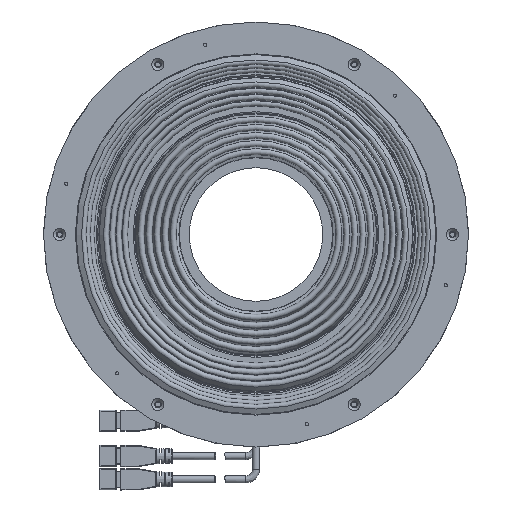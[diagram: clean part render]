
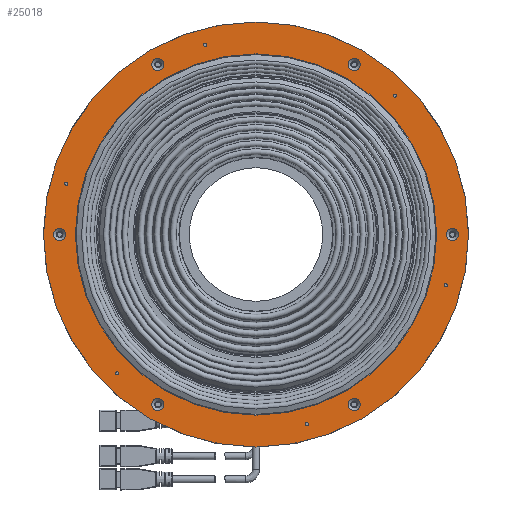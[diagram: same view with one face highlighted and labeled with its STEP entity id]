
A CAD part, front view. The second image highlights one B-rep face of the part: STEP entity #25018.
In plain terms, the highlighted planar face has unit normal (0, -1, 0).
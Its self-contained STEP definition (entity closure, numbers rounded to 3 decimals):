
#203 = FACE_BOUND ( 'NONE', #10882, .T. ) ;
#263 = ORIENTED_EDGE ( 'NONE', *, *, #7367, .F. ) ;
#453 = ORIENTED_EDGE ( 'NONE', *, *, #17191, .F. ) ;
#557 = CARTESIAN_POINT ( 'NONE',  ( 0., -62.5, 0. ) ) ;
#782 = DIRECTION ( 'NONE',  ( -0.866, 0., 0.5 ) ) ;
#1476 = FACE_BOUND ( 'NONE', #12536, .T. ) ;
#1606 = DIRECTION ( 'NONE',  ( 0.866, 0., -0.5 ) ) ;
#1882 = CARTESIAN_POINT ( 'NONE',  ( -24.413, -62.5, 93.295 ) ) ;
#2046 = CARTESIAN_POINT ( 'NONE',  ( 51.098, -62.5, 82.504 ) ) ;
#2954 = DIRECTION ( 'NONE',  ( 0.866, 0., -0.5 ) ) ;
#3031 = DIRECTION ( 'NONE',  ( 0.866, 0., -0.5 ) ) ;
#3050 = EDGE_CURVE ( 'NONE', #15228, #15228, #17728, .T. ) ;
#3204 = EDGE_LOOP ( 'NONE', ( #17561 ) ) ;
#3430 = CARTESIAN_POINT ( 'NONE',  ( -94.402, -62.5, -1.5 ) ) ;
#3611 = AXIS2_PLACEMENT_3D ( 'NONE', #30017, #11236, #2954 ) ;
#3721 = EDGE_CURVE ( 'NONE', #14371, #14371, #24366, .T. ) ;
#4034 = EDGE_CURVE ( 'NONE', #22371, #22371, #5152, .T. ) ;
#4826 = CARTESIAN_POINT ( 'NONE',  ( 48.5, -62.5, -84.004 ) ) ;
#4843 = EDGE_CURVE ( 'NONE', #16094, #16094, #27600, .T. ) ;
#4864 = FACE_BOUND ( 'NONE', #13019, .T. ) ;
#4997 = EDGE_CURVE ( 'NONE', #17314, #17314, #11626, .T. ) ;
#5056 = EDGE_LOOP ( 'NONE', ( #263 ) ) ;
#5152 = CIRCLE ( 'NONE', #26201, 89.256 ) ;
#5200 = CIRCLE ( 'NONE', #27896, 3. ) ;
#5206 = ORIENTED_EDGE ( 'NONE', *, *, #8014, .F. ) ;
#5244 = DIRECTION ( 'NONE',  ( 0.866, 0., -0.5 ) ) ;
#5550 = DIRECTION ( 'NONE',  ( 0.866, 0., -0.5 ) ) ;
#5902 = CARTESIAN_POINT ( 'NONE',  ( -93.695, -62.5, 25.105 ) ) ;
#5940 = CARTESIAN_POINT ( 'NONE',  ( 68.589, -62.5, 68.589 ) ) ;
#6017 = DIRECTION ( 'NONE',  ( 0.866, 0., -0.5 ) ) ;
#6098 = FACE_BOUND ( 'NONE', #15999, .T. ) ;
#6118 = CARTESIAN_POINT ( 'NONE',  ( -67.897, -62.5, -68.989 ) ) ;
#6214 = AXIS2_PLACEMENT_3D ( 'NONE', #8420, #24322, #3031 ) ;
#6431 = DIRECTION ( 'NONE',  ( 0.866, 0., -0.5 ) ) ;
#6898 = AXIS2_PLACEMENT_3D ( 'NONE', #16902, #7002, #1606 ) ;
#6912 = ORIENTED_EDGE ( 'NONE', *, *, #28408, .F. ) ;
#6946 = FACE_BOUND ( 'NONE', #20689, .T. ) ;
#7002 = DIRECTION ( 'NONE',  ( 0., -1., 0. ) ) ;
#7208 = AXIS2_PLACEMENT_3D ( 'NONE', #10894, #10081, #5550 ) ;
#7367 = EDGE_CURVE ( 'NONE', #24447, #24447, #12763, .T. ) ;
#7394 = FACE_BOUND ( 'NONE', #26424, .T. ) ;
#7431 = ORIENTED_EDGE ( 'NONE', *, *, #19134, .F. ) ;
#7548 = DIRECTION ( 'NONE',  ( 0., -1., 0. ) ) ;
#7689 = VERTEX_POINT ( 'NONE', #1882 ) ;
#7780 = FACE_BOUND ( 'NONE', #30837, .T. ) ;
#7905 = CARTESIAN_POINT ( 'NONE',  ( 69.282, -62.5, 68.189 ) ) ;
#8014 = EDGE_CURVE ( 'NONE', #31633, #31633, #25655, .T. ) ;
#8389 = CIRCLE ( 'NONE', #30445, 0.8 ) ;
#8420 = CARTESIAN_POINT ( 'NONE',  ( -68.589, -62.5, -68.589 ) ) ;
#9049 = FACE_BOUND ( 'NONE', #5056, .T. ) ;
#10081 = DIRECTION ( 'NONE',  ( 0., -1., 0. ) ) ;
#10420 = ORIENTED_EDGE ( 'NONE', *, *, #4843, .F. ) ;
#10719 = AXIS2_PLACEMENT_3D ( 'NONE', #557, #27503, #782 ) ;
#10882 = EDGE_LOOP ( 'NONE', ( #20457 ) ) ;
#10894 = CARTESIAN_POINT ( 'NONE',  ( 48.5, -62.5, 84.004 ) ) ;
#10995 = CARTESIAN_POINT ( 'NONE',  ( 99.598, -62.5, -1.5 ) ) ;
#11006 = VERTEX_POINT ( 'NONE', #25632 ) ;
#11236 = DIRECTION ( 'NONE',  ( 0., -1., 0. ) ) ;
#11333 = DIRECTION ( 'NONE',  ( 0., -1., 0. ) ) ;
#11437 = DIRECTION ( 'NONE',  ( 0., -1., 0. ) ) ;
#11484 = DIRECTION ( 'NONE',  ( 0., -1., 0. ) ) ;
#11626 = CIRCLE ( 'NONE', #3611, 0.8 ) ;
#12536 = EDGE_LOOP ( 'NONE', ( #32558 ) ) ;
#12763 = CIRCLE ( 'NONE', #22286, 3. ) ;
#12836 = CARTESIAN_POINT ( 'NONE',  ( 0., -62.5, 0. ) ) ;
#13019 = EDGE_LOOP ( 'NONE', ( #10420 ) ) ;
#13039 = ORIENTED_EDGE ( 'NONE', *, *, #3050, .F. ) ;
#13107 = EDGE_CURVE ( 'NONE', #18984, #18984, #31602, .T. ) ;
#13251 = EDGE_LOOP ( 'NONE', ( #6912 ) ) ;
#13612 = EDGE_CURVE ( 'NONE', #34109, #34109, #22276, .T. ) ;
#14081 = ORIENTED_EDGE ( 'NONE', *, *, #29144, .F. ) ;
#14371 = VERTEX_POINT ( 'NONE', #23791 ) ;
#14434 = CARTESIAN_POINT ( 'NONE',  ( 0., -62.5, 0. ) ) ;
#14703 = CARTESIAN_POINT ( 'NONE',  ( 25.798, -62.5, -94.095 ) ) ;
#15113 = EDGE_LOOP ( 'NONE', ( #21758 ) ) ;
#15228 = VERTEX_POINT ( 'NONE', #20957 ) ;
#15516 = DIRECTION ( 'NONE',  ( 0.866, 0., -0.5 ) ) ;
#15643 = CARTESIAN_POINT ( 'NONE',  ( -48.5, -62.5, -84.004 ) ) ;
#15678 = CARTESIAN_POINT ( 'NONE',  ( 77.298, -62.5, -44.628 ) ) ;
#15999 = EDGE_LOOP ( 'NONE', ( #5206 ) ) ;
#16094 = VERTEX_POINT ( 'NONE', #2046 ) ;
#16902 = CARTESIAN_POINT ( 'NONE',  ( -48.5, -62.5, 84.004 ) ) ;
#17129 = AXIS2_PLACEMENT_3D ( 'NONE', #5902, #18940, #6017 ) ;
#17191 = EDGE_CURVE ( 'NONE', #30369, #30369, #5200, .T. ) ;
#17285 = EDGE_LOOP ( 'NONE', ( #14081 ) ) ;
#17314 = VERTEX_POINT ( 'NONE', #31878 ) ;
#17561 = ORIENTED_EDGE ( 'NONE', *, *, #13107, .F. ) ;
#17623 = CIRCLE ( 'NONE', #23737, 3. ) ;
#17728 = CIRCLE ( 'NONE', #6898, 3. ) ;
#17760 = CARTESIAN_POINT ( 'NONE',  ( -45.902, -62.5, -85.504 ) ) ;
#17823 = CIRCLE ( 'NONE', #20643, 0.8 ) ;
#18558 = VERTEX_POINT ( 'NONE', #14703 ) ;
#18940 = DIRECTION ( 'NONE',  ( 0., -1., 0. ) ) ;
#18984 = VERTEX_POINT ( 'NONE', #27189 ) ;
#19035 = FACE_BOUND ( 'NONE', #28120, .T. ) ;
#19134 = EDGE_CURVE ( 'NONE', #18558, #18558, #8389, .T. ) ;
#19337 = DIRECTION ( 'NONE',  ( 0., -1., 0. ) ) ;
#19402 = DIRECTION ( 'NONE',  ( 0.866, 0., -0.5 ) ) ;
#19463 = DIRECTION ( 'NONE',  ( 0.866, 0., -0.5 ) ) ;
#20457 = ORIENTED_EDGE ( 'NONE', *, *, #4034, .F. ) ;
#20643 = AXIS2_PLACEMENT_3D ( 'NONE', #24692, #11437, #19402 ) ;
#20689 = EDGE_LOOP ( 'NONE', ( #7431 ) ) ;
#20957 = CARTESIAN_POINT ( 'NONE',  ( -45.902, -62.5, 82.504 ) ) ;
#21754 = CARTESIAN_POINT ( 'NONE',  ( -97., -62.5, 0. ) ) ;
#21758 = ORIENTED_EDGE ( 'NONE', *, *, #30665, .F. ) ;
#21957 = CIRCLE ( 'NONE', #31800, 3. ) ;
#22276 = CIRCLE ( 'NONE', #6214, 0.8 ) ;
#22286 = AXIS2_PLACEMENT_3D ( 'NONE', #27576, #11484, #30270 ) ;
#22371 = VERTEX_POINT ( 'NONE', #15678 ) ;
#22430 = DIRECTION ( 'NONE',  ( 0., -1., 0. ) ) ;
#23159 = ORIENTED_EDGE ( 'NONE', *, *, #13612, .F. ) ;
#23737 = AXIS2_PLACEMENT_3D ( 'NONE', #4826, #34427, #15516 ) ;
#23791 = CARTESIAN_POINT ( 'NONE',  ( 90.933, -62.5, -52.5 ) ) ;
#23880 = AXIS2_PLACEMENT_3D ( 'NONE', #5940, #19337, #19463 ) ;
#24322 = DIRECTION ( 'NONE',  ( 0., -1., 0. ) ) ;
#24366 = CIRCLE ( 'NONE', #26406, 105.001 ) ;
#24447 = VERTEX_POINT ( 'NONE', #10995 ) ;
#24499 = FACE_BOUND ( 'NONE', #3204, .T. ) ;
#24692 = CARTESIAN_POINT ( 'NONE',  ( -25.105, -62.5, 93.695 ) ) ;
#25018 = ADVANCED_FACE ( 'NONE', ( #6946, #7780, #24499, #34575, #6098, #1476, #9049, #34162, #27038, #19035, #7394, #4864, #203, #27916 ), #30089, .F. ) ;
#25632 = CARTESIAN_POINT ( 'NONE',  ( 51.098, -62.5, -85.504 ) ) ;
#25655 = CIRCLE ( 'NONE', #23880, 0.8 ) ;
#26201 = AXIS2_PLACEMENT_3D ( 'NONE', #14434, #22430, #6431 ) ;
#26406 = AXIS2_PLACEMENT_3D ( 'NONE', #12836, #26673, #31832 ) ;
#26424 = EDGE_LOOP ( 'NONE', ( #13039 ) ) ;
#26673 = DIRECTION ( 'NONE',  ( 0., -1., 0. ) ) ;
#27038 = FACE_BOUND ( 'NONE', #13251, .T. ) ;
#27090 = CARTESIAN_POINT ( 'NONE',  ( 25.105, -62.5, -93.695 ) ) ;
#27189 = CARTESIAN_POINT ( 'NONE',  ( -93.002, -62.5, 24.705 ) ) ;
#27503 = DIRECTION ( 'NONE',  ( 0., 1., 0. ) ) ;
#27576 = CARTESIAN_POINT ( 'NONE',  ( 97., -62.5, 0. ) ) ;
#27600 = CIRCLE ( 'NONE', #7208, 3. ) ;
#27896 = AXIS2_PLACEMENT_3D ( 'NONE', #21754, #11333, #30124 ) ;
#27916 = FACE_OUTER_BOUND ( 'NONE', #29153, .T. ) ;
#28120 = EDGE_LOOP ( 'NONE', ( #453 ) ) ;
#28408 = EDGE_CURVE ( 'NONE', #29072, #29072, #21957, .T. ) ;
#29072 = VERTEX_POINT ( 'NONE', #17760 ) ;
#29144 = EDGE_CURVE ( 'NONE', #11006, #11006, #17623, .T. ) ;
#29153 = EDGE_LOOP ( 'NONE', ( #29188 ) ) ;
#29188 = ORIENTED_EDGE ( 'NONE', *, *, #3721, .T. ) ;
#29415 = DIRECTION ( 'NONE',  ( 0.866, 0., -0.5 ) ) ;
#30017 = CARTESIAN_POINT ( 'NONE',  ( 93.695, -62.5, -25.105 ) ) ;
#30089 = PLANE ( 'NONE',  #10719 ) ;
#30124 = DIRECTION ( 'NONE',  ( 0.866, 0., -0.5 ) ) ;
#30270 = DIRECTION ( 'NONE',  ( 0.866, 0., -0.5 ) ) ;
#30369 = VERTEX_POINT ( 'NONE', #3430 ) ;
#30445 = AXIS2_PLACEMENT_3D ( 'NONE', #27090, #32252, #5244 ) ;
#30665 = EDGE_CURVE ( 'NONE', #7689, #7689, #17823, .T. ) ;
#30837 = EDGE_LOOP ( 'NONE', ( #23159 ) ) ;
#31602 = CIRCLE ( 'NONE', #17129, 0.8 ) ;
#31633 = VERTEX_POINT ( 'NONE', #7905 ) ;
#31800 = AXIS2_PLACEMENT_3D ( 'NONE', #15643, #7548, #29415 ) ;
#31832 = DIRECTION ( 'NONE',  ( 0.866, 0., -0.5 ) ) ;
#31878 = CARTESIAN_POINT ( 'NONE',  ( 94.388, -62.5, -25.505 ) ) ;
#32252 = DIRECTION ( 'NONE',  ( 0., -1., 0. ) ) ;
#32558 = ORIENTED_EDGE ( 'NONE', *, *, #4997, .F. ) ;
#34109 = VERTEX_POINT ( 'NONE', #6118 ) ;
#34162 = FACE_BOUND ( 'NONE', #17285, .T. ) ;
#34427 = DIRECTION ( 'NONE',  ( 0., -1., 0. ) ) ;
#34575 = FACE_BOUND ( 'NONE', #15113, .T. ) ;
